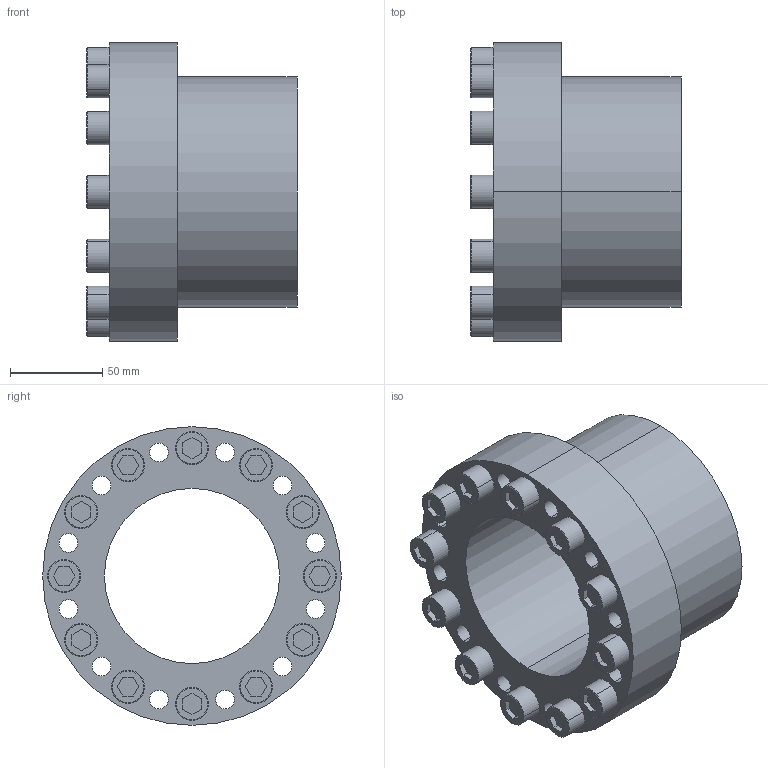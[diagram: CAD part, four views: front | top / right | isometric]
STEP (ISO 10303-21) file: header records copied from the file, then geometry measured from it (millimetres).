
FILE_DESCRIPTION (( 'STEP AP203' ), '1' );
FILE_NAME ('SB-100.STEP', '2009-09-29T15:53:45', ( 'USER' ), ( 'HOME' ), 'SwSTEP 2.0', 'SolidWorks 2007', '' );
FILE_SCHEMA (( 'CONFIG_CONTROL_DESIGN' ));
Length unit declared in the file: millimetre
Products named in the file (1): SB-100
Bounding box: 114 x 162 x 162 mm (x, y, z)
Volume: 822757.9 mm3; surface area: 151573.5 mm2
Topology: 13 solids, 13 shells, 249 faces, 570 edges, 372 vertices
Faces by surface type: plane 123, cylinder 102, cone 24
Entity records: 7213 total; most frequent: DIRECTION 1298, CARTESIAN_POINT 1192, ORIENTED_EDGE 1140, EDGE_CURVE 570, AXIS2_PLACEMENT_3D 478, VERTEX_POINT 372, VECTOR 342, LINE 342
